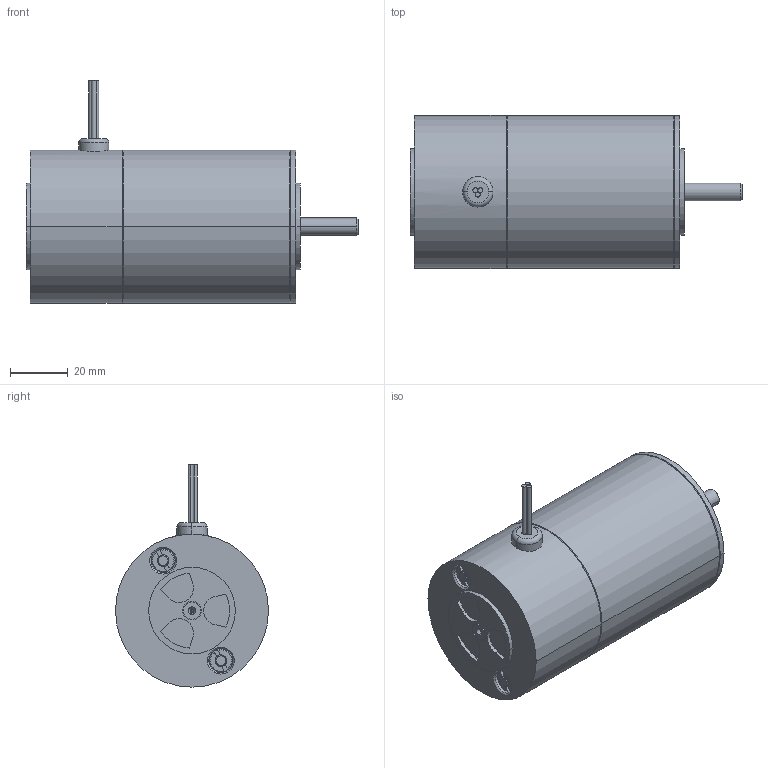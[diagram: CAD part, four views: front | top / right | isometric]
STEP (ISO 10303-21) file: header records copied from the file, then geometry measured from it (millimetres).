
FILE_DESCRIPTION (( 'STEP AP214' ), '1' );
FILE_NAME ('G545.STEP', '2009-12-08T10:01:06', ( 'hirschmeier' ), ( '' ), 'SwSTEP 2.0', 'SolidWorks 2008', '' );
FILE_SCHEMA (( 'AUTOMOTIVE_DESIGN' ));
Length unit declared in the file: millimetre
Products named in the file (1): G545
Bounding box: 115 x 53 x 77 mm (x, y, z)
Volume: 205211.6 mm3; surface area: 22118.8 mm2
Topology: 1 solids, 1 shells, 157 faces, 367 edges, 224 vertices
Faces by surface type: cylinder 61, cone 52, plane 42, torus 2
Entity records: 5823 total; most frequent: DIRECTION 847, CARTESIAN_POINT 839, ORIENTED_EDGE 710, EDGE_CURVE 355, AXIS2_PLACEMENT_3D 344, VERTEX_POINT 224, CIRCLE 186, EDGE_LOOP 181
